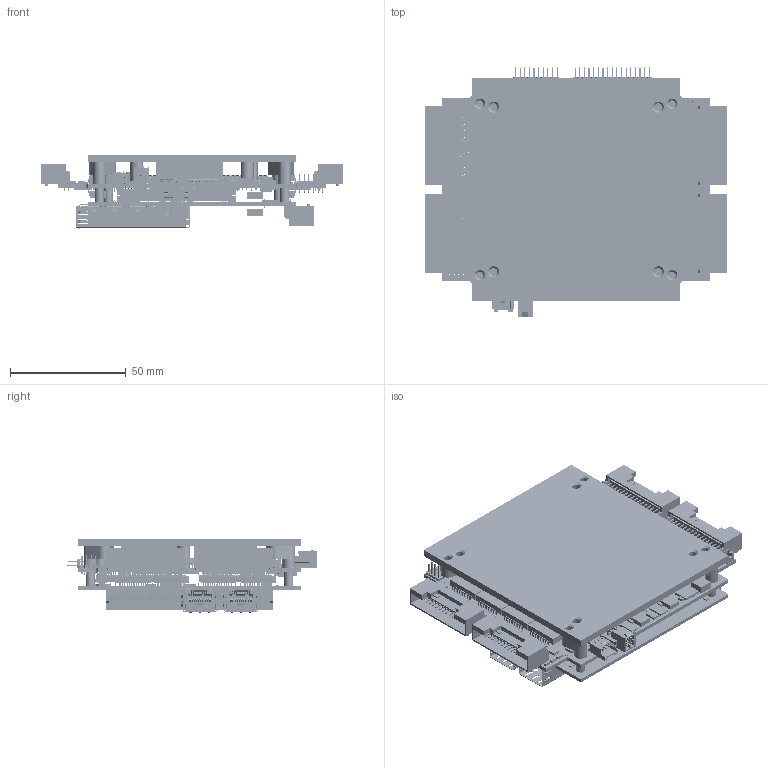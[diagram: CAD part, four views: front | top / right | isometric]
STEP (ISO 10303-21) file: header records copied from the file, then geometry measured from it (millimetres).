
FILE_DESCRIPTION((''),'2;1');
FILE_NAME('7110850-1_EPS-24000_MAIN_BOARD__ASM','2014-12-16T',('user'),(''),'PRO/ENGINEER BY PARAMETRIC TECHNOLOGY CORPORATION, 2009360','PRO/ENGINEER BY PARAMETRIC TECHNOLOGY CORPORATION, 2009360','');
FILE_SCHEMA(('CONFIG_CONTROL_DESIGN'));
Products named in the file (56): 7110850-1_EPS-24000_MAIN_BOARD_; TP30T; SM0402C; HTSSOP4_4X6_5-20PWP_TI; CAP_0603-HT0_9; HDR_2P_H5_P2X2_ST_TH; RES_0603_EIA; CAP_TANTD; SM0603LED_AC; DO-214AC; SOT143-48M; LED1_6SQ-HT0_7_P4; OSC_5X3_33M; IPL1-102-01-D-RA; SOP_4X5_H1_7_P8_EP; TSSOP4X5-16-47M; CAP_1206; IND_XAL5030; IND-2020BZ; RES_1206_EIA; QFN_3X6_P28_HT; CAP_1210_EIA; RES_0402; IND_0603-HT0_9; CAP_0603-HT0_9_IR; CAP_0402; S32B-PUDSS-1; 353630360; 951220-7622-AR; 951208-8622-AR; SAMTEC-IPL1-102-01-L-D-RA-K; 951204-8622-AR; DF13_2P_1_25DSA; 951234-7622-AR; 749020023_WRUTH_ELEC; SAMTEC-TMM-106-01-F-S; 528851474; VSC-7429; VSC-8512; MICRON_MT47H128M8CF_25E_IT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
Assembly tree (791 placements, depth 4):
  7110850-1_EPS-24000_MAIN_BOARD__ASM
    7110850-1_EPS-24000_MAIN_BOARD_
    TP30T  x3
    SM0402C  x2
    HTSSOP4_4X6_5-20PWP_TI
    CAP_0603-HT0_9  x4
    HDR_2P_H5_P2X2_ST_TH
    RES_0603_EIA  x6
    CAP_TANTD
    SM0603LED_AC  x3
    DO-214AC
    SOT143-48M
    LED1_6SQ-HT0_7_P4  x3
    OSC_5X3_33M  x2
    IPL1-102-01-D-RA
    SOP_4X5_H1_7_P8_EP
    TSSOP4X5-16-47M
    CAP_1206  x7
    IND_XAL5030
    IND-2020BZ  x2
    RES_1206_EIA  x3
    QFN_3X6_P28_HT  x2
    CAP_1210_EIA  x27
    RES_0402  x205
    IND_0603-HT0_9  x10
    CAP_0603-HT0_9_IR  x25
    CAP_0402  x309
    S32B-PUDSS-1  x4
    353630360
    951220-7622-AR
    951208-8622-AR  x2
    SAMTEC-IPL1-102-01-L-D-RA-K
    951204-8622-AR
    DF13_2P_1_25DSA
    951234-7622-AR
    749020023_WRUTH_ELEC  x16
    SAMTEC-TMM-106-01-F-S
    528851474
    VSC-7429
    VSC-8512
    MICRON_MT47H128M8CF_25E_IT
    LCMXO2-640HC-4TG100I
    N25Q128A13DSF40F
    NC754_ASM
      NC754_ANY_ASM
        GR45_ANY  x2
        SP0650_DIAMOND_ESP-24000-HEATSP
      _NC754
    K2SU03400010  x4
    7110851-1-ESP_24000_DAUGHTERBOA_ASM
      7110851-1-ESP_24000_DAUGHTERBOA
      RES_0603_EIA  x4
      RES_0402  x42
      IND_2X2_5_H1_2_P2  x4
      CAP_1210_EIA  x10
      CAP_0603  x2
      CAP_0603-HT0_9_IR
      TSSOP4X5-16-47M
      CAP_0402  x42
      550911474
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Bounding box: 130.63 x 107.72 x 32.28 mm (x, y, z)
Volume: 95408.3 mm3; surface area: 129460.5 mm2
Topology: 789 solids, 803 shells, 34069 faces, 89957 edges, 59287 vertices
Faces by surface type: plane 22014, cylinder 11923, extrusion 52, cone 36, torus 20, bspline 16, sphere 8
Entity records: 551659 total; most frequent: CARTESIAN_POINT 99398, DIRECTION 96821, ORIENTED_EDGE 89672, EDGE_CURVE 45131, AXIS2_PLACEMENT_3D 34588, VERTEX_POINT 29747, VECTOR 27645, LINE 27619
